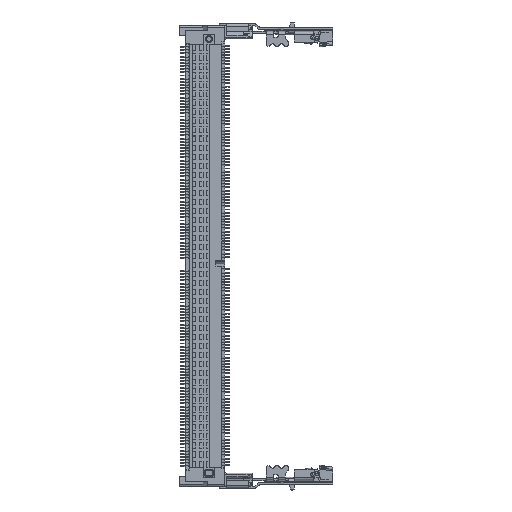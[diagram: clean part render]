
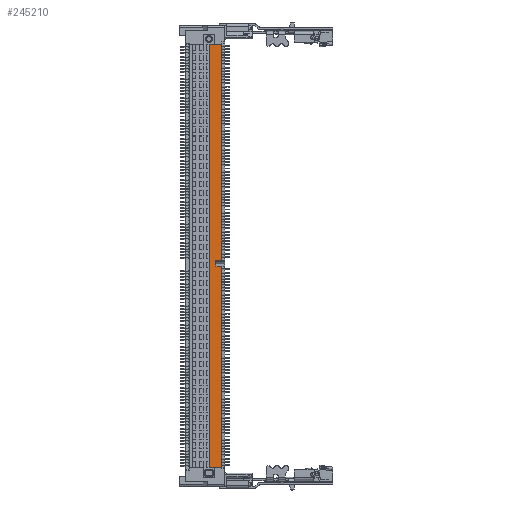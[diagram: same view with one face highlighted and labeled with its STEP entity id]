
A CAD part, top view. The second image highlights one B-rep face of the part: STEP entity #245210.
In plain terms, the highlighted planar face has unit normal (0, 0, 1).
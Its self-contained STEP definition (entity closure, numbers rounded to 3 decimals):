
#52468=DIRECTION('',(-1.,0.,0.));
#52469=VECTOR('',#52468,0.95);
#52470=CARTESIAN_POINT('',(3.25,-1.6,2.025));
#52471=LINE('',#52470,#52469);
#52472=DIRECTION('',(0.,1.,0.));
#52473=VECTOR('',#52472,32.);
#52474=CARTESIAN_POINT('',(3.25,-33.6,2.025));
#52475=LINE('',#52474,#52473);
#52476=DIRECTION('',(1.,0.,0.));
#52477=VECTOR('',#52476,0.9);
#52478=CARTESIAN_POINT('',(1.2,-33.6,2.025));
#52479=LINE('',#52478,#52477);
#52480=DIRECTION('',(0.,-1.,0.));
#52481=VECTOR('',#52480,67.2);
#52482=CARTESIAN_POINT('',(1.2,33.6,2.025));
#52483=LINE('',#52482,#52481);
#52484=DIRECTION('',(-1.,0.,0.));
#52485=VECTOR('',#52484,0.9);
#52486=CARTESIAN_POINT('',(2.1,33.6,2.025));
#52487=LINE('',#52486,#52485);
#52488=DIRECTION('',(-1.,0.,0.));
#52489=VECTOR('',#52488,1.15);
#52490=CARTESIAN_POINT('',(3.25,33.6,2.025));
#52491=LINE('',#52490,#52489);
#52492=DIRECTION('',(0.,1.,0.));
#52493=VECTOR('',#52492,34.25);
#52494=CARTESIAN_POINT('',(3.25,-0.65,2.025));
#52495=LINE('',#52494,#52493);
#52496=DIRECTION('',(1.,0.,0.));
#52497=VECTOR('',#52496,0.95);
#52498=CARTESIAN_POINT('',(2.3,-0.65,2.025));
#52499=LINE('',#52498,#52497);
#52500=DIRECTION('',(0.,1.,0.));
#52501=VECTOR('',#52500,0.95);
#52502=CARTESIAN_POINT('',(2.3,-1.6,2.025));
#52503=LINE('',#52502,#52501);
#72252=DIRECTION('',(-1.,0.,0.));
#72253=VECTOR('',#72252,1.15);
#72254=CARTESIAN_POINT('',(3.25,-33.6,2.025));
#72255=LINE('',#72254,#72253);
#119131=CARTESIAN_POINT('',(3.25,-33.6,2.025));
#119132=VERTEX_POINT('',#119131);
#119213=CARTESIAN_POINT('',(2.1,-33.6,2.025));
#119214=VERTEX_POINT('',#119213);
#119217=CARTESIAN_POINT('',(3.25,-1.6,2.025));
#119218=VERTEX_POINT('',#119217);
#119461=CARTESIAN_POINT('',(2.3,-1.6,2.025));
#119462=VERTEX_POINT('',#119461);
#119604=CARTESIAN_POINT('',(1.2,-33.6,2.025));
#119605=VERTEX_POINT('',#119604);
#119606=CARTESIAN_POINT('',(2.3,-0.65,2.025));
#119607=VERTEX_POINT('',#119606);
#119610=CARTESIAN_POINT('',(3.25,-0.65,2.025));
#119612=VERTEX_POINT('',#119610);
#119614=CARTESIAN_POINT('',(3.25,33.6,2.025));
#119615=CARTESIAN_POINT('',(2.1,33.6,2.025));
#119616=VERTEX_POINT('',#119614);
#119617=VERTEX_POINT('',#119615);
#119753=CARTESIAN_POINT('',(1.2,33.6,2.025));
#119754=VERTEX_POINT('',#119753);
#245185=CARTESIAN_POINT('',(-3.55,-36.55,2.025));
#245186=DIRECTION('',(0.,0.,1.));
#245187=DIRECTION('',(1.,0.,0.));
#245188=AXIS2_PLACEMENT_3D('',#245185,#245186,#245187);
#245189=PLANE('',#245188);
#245191=ORIENTED_EDGE('',*,*,#245190,.F.);
#245192=ORIENTED_EDGE('',*,*,#168068,.F.);
#245194=ORIENTED_EDGE('',*,*,#245193,.T.);
#245196=ORIENTED_EDGE('',*,*,#245195,.F.);
#245198=ORIENTED_EDGE('',*,*,#245197,.F.);
#245200=ORIENTED_EDGE('',*,*,#245199,.F.);
#245201=ORIENTED_EDGE('',*,*,#245176,.F.);
#245203=ORIENTED_EDGE('',*,*,#245202,.F.);
#245205=ORIENTED_EDGE('',*,*,#245204,.F.);
#245207=ORIENTED_EDGE('',*,*,#245206,.F.);
#245208=EDGE_LOOP('',(#245191,#245192,#245194,#245196,#245198,#245200,#245201,
#245203,#245205,#245207));
#245209=FACE_OUTER_BOUND('',#245208,.F.);
#168068=EDGE_CURVE('',#119132,#119218,#52475,.T.);
#245176=EDGE_CURVE('',#119616,#119617,#52491,.T.);
#245190=EDGE_CURVE('',#119218,#119462,#52471,.T.);
#245193=EDGE_CURVE('',#119132,#119214,#72255,.T.);
#245195=EDGE_CURVE('',#119605,#119214,#52479,.T.);
#245197=EDGE_CURVE('',#119754,#119605,#52483,.T.);
#245199=EDGE_CURVE('',#119617,#119754,#52487,.T.);
#245202=EDGE_CURVE('',#119612,#119616,#52495,.T.);
#245204=EDGE_CURVE('',#119607,#119612,#52499,.T.);
#245206=EDGE_CURVE('',#119462,#119607,#52503,.T.);
#245210=ADVANCED_FACE('',(#245209),#245189,.T.);
